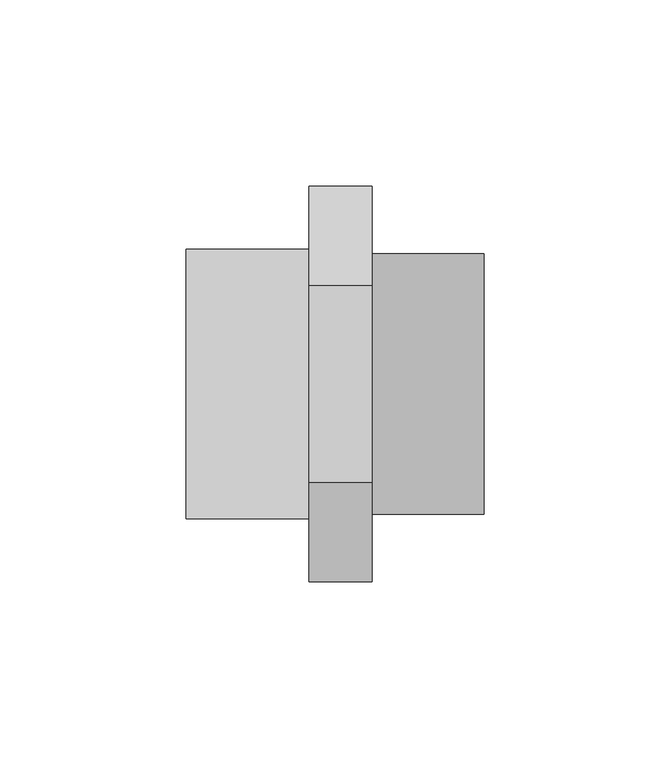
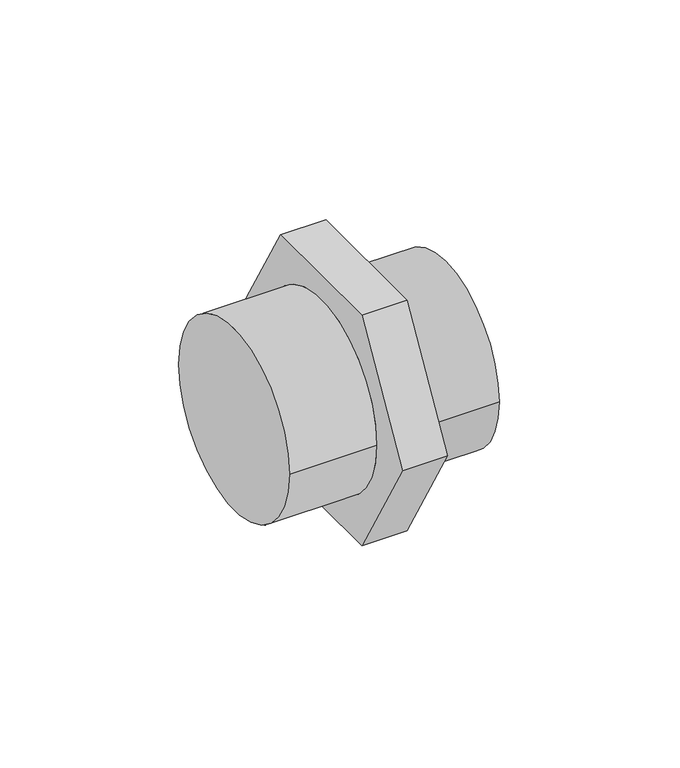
"""IFC4 building model written with IfcOpenShell, lengths in millimetres: pipe fitting geometry, 01011197 : Mamelons doubles réduction."""

import ifcopenshell
import ifcopenshell.guid

model = None  # the IFC model being written
_history = None  # IfcOwnerHistory: only IFC2X3 demands one
_inside = {}  # id of a spatial element -> (the spatial element, [elements in it])
_under = {}  # id of a project, library or spatial element -> (it, [spatial elements below it])
_declared = {}  # id of a project -> (the project, [libraries it declares])
_typed = {}  # id of a type object -> (the type object, [elements of that type])
_made_of = {}  # id of a material, layer set ... -> (it, [elements and type objects made of it])


def new_model(schema):
    """Start an empty IFC model of exactly this schema.

    Asked for "IFC4X3", IfcOpenShell would pick the latest addendum, in which some entities
    have other attributes; the version numbers below select the first issue.
    IFC2X3 requires an IfcOwnerHistory on every rooted entity: one is made here for all.
    """
    global model, _history
    if schema == "IFC4X3":
        model = ifcopenshell.file(schema_version=(4, 3, 0, 0))
    else:
        model = ifcopenshell.file(schema=schema)
    _inside.clear()
    _under.clear()
    _declared.clear()
    _typed.clear()
    _made_of.clear()
    _history = None
    if model.schema == "IFC2X3":
        org = make("IfcOrganization", Name="unknown")
        user = make(
            "IfcPersonAndOrganization",
            ThePerson=make("IfcPerson", FamilyName="unknown"),
            TheOrganization=org,
        )
        app = make(
            "IfcApplication",
            ApplicationDeveloper=org,
            Version="unknown",
            ApplicationFullName="unknown",
            ApplicationIdentifier="unknown",
        )
        _history = make(
            "IfcOwnerHistory",
            OwningUser=user,
            OwningApplication=app,
            ChangeAction="ADDED",
            CreationDate=0,
        )
    return model


def make(cls, **values):
    """One entity of the class cls with the attributes given. An attribute that is None is left unset."""
    return model.create_entity(
        cls, **{name: value for name, value in values.items() if value is not None}
    )


def rooted(cls, **values):
    """An entity with a GlobalId (a new one), such as an element, a storey or a relation."""
    return make(cls, GlobalId=ifcopenshell.guid.new(), OwnerHistory=_history, **values)


def si_unit(unit_type, name, prefix=None):
    """IfcSIUnit, for example si_unit("LENGTHUNIT", "METRE", prefix="MILLI")."""
    return make("IfcSIUnit", UnitType=unit_type, Prefix=prefix, Name=name)


def assignment(units):
    """IfcUnitAssignment: the units of a project."""
    return None if units is None else make("IfcUnitAssignment", Units=units)


def point(xyz):
    """IfcCartesianPoint."""
    return None if xyz is None else make("IfcCartesianPoint", Coordinates=xyz)


def direction(xyz):
    """IfcDirection."""
    return None if xyz is None else make("IfcDirection", DirectionRatios=xyz)


def frame(location, z_axis=None, x_axis=None):
    """IfcAxis2Placement3D, a coordinate frame: its origin and axes. An axis left out is left unset."""
    return make(
        "IfcAxis2Placement3D",
        Location=point(location),
        Axis=direction(z_axis),
        RefDirection=direction(x_axis),
    )


def origin():
    """The frame at (0, 0, 0) with its axes left unset."""
    return frame((0.0, 0.0, 0.0))


def place(relative_to, where):
    """IfcLocalPlacement: puts the frame where relative to a parent placement (None: the world)."""
    return make(
        "IfcLocalPlacement", PlacementRelTo=relative_to, RelativePlacement=where
    )


def context(
    kind, dimensions, precision=None, world=None, true_north=None, identifier=None
):
    """IfcGeometricRepresentationContext, for example the 3D "Model" context."""
    return make(
        "IfcGeometricRepresentationContext",
        ContextIdentifier=identifier,
        ContextType=kind,
        CoordinateSpaceDimension=dimensions,
        Precision=precision,
        WorldCoordinateSystem=world,
        TrueNorth=true_north,
    )


def project(units=None, contexts=None):
    """IfcProject with its units and contexts."""
    return rooted(
        "IfcProject",
        Name="project",
        RepresentationContexts=contexts,
        UnitsInContext=assignment(units),
    )


def spatial(cls, under=None, at=None, **own):
    """A site, building, storey or space (cls), placed at a placement, below another one or the project."""
    s = rooted(cls, ObjectPlacement=at, **own)
    if under is not None:
        _under.setdefault(under.id(), (under, []))[1].append(s)
    return s


def circle_curve(where, radius):
    """IfcCircle in the frame where."""
    return make("IfcCircle", Position=where, Radius=radius)


def shape(context_of_items, identifier, shape_type, items):
    """IfcShapeRepresentation: the items that make up one representation, for example the "Body"."""
    return make(
        "IfcShapeRepresentation",
        ContextOfItems=context_of_items,
        RepresentationIdentifier=identifier,
        RepresentationType=shape_type,
        Items=items,
    )


def source(mapping_origin, context_of_items, identifier, shape_type, items):
    """IfcRepresentationMap: a shape defined once, which mapped items show again and again."""
    return make(
        "IfcRepresentationMap",
        MappingOrigin=mapping_origin,
        MappedRepresentation=shape(context_of_items, identifier, shape_type, items),
    )


def transform(
    local_origin,
    x_axis=None,
    y_axis=None,
    z_axis=None,
    scale=None,
    scale2=None,
    scale3=None,
    uniform=True,
):
    """IfcCartesianTransformationOperator3D, or its non-uniform kind. x_axis, y_axis, z_axis: its Axis1, 2, 3."""
    if uniform:
        return make(
            "IfcCartesianTransformationOperator3D",
            Axis1=direction(x_axis),
            Axis2=direction(y_axis),
            LocalOrigin=point(local_origin),
            Scale=scale,
            Axis3=direction(z_axis),
        )
    return make(
        "IfcCartesianTransformationOperator3DnonUniform",
        Axis1=direction(x_axis),
        Axis2=direction(y_axis),
        LocalOrigin=point(local_origin),
        Scale=scale,
        Axis3=direction(z_axis),
        Scale2=scale2,
        Scale3=scale3,
    )


def mapped(mapping_source, mapping_target):
    """IfcMappedItem: shows the shape of a source again, moved by a transform."""
    return make(
        "IfcMappedItem", MappingSource=mapping_source, MappingTarget=mapping_target
    )


def made_of(thing, what):
    """Note that an element or type object is made of a material, layer set ...; save() writes the relation."""
    if what is not None:
        _made_of.setdefault(what.id(), (what, []))[1].append(thing)
    return thing


def element(
    cls,
    number,
    at=None,
    inside=None,
    cuts=None,
    type_object=None,
    material=None,
    context=None,
    identifier="Body",
    shape_type=None,
    held_by="IfcProductDefinitionShape",
    body=None,
    shapes=None,
    **own,
):
    """One element of the class cls, such as IfcWall. Its Tag is "e" and its number.

    at: its placement. inside: the storey or other place that contains it. cuts: it is an
    opening in that element (IfcRelVoidsElement). A single representation is given by context,
    identifier, shape_type and body (its items); several are given by shapes. held_by: the class
    of the entity that holds the representations. save() writes the other relations.
    """
    e = rooted(cls, Tag="e%d" % number, ObjectPlacement=at, **own)
    if body is not None:
        shapes = [shape(context, identifier, shape_type, body)]
    if shapes is not None:
        e.Representation = make(held_by, Representations=shapes)
    if inside is not None:
        _inside.setdefault(inside.id(), (inside, []))[1].append(e)
    if cuts is not None:
        rooted(
            "IfcRelVoidsElement", RelatingBuildingElement=cuts, RelatedOpeningElement=e
        )
    if type_object is not None:
        _typed.setdefault(type_object.id(), (type_object, []))[1].append(e)
    return made_of(e, material)


def aggregate(whole, parts):
    """IfcRelAggregates: a whole, such as a stair, and the parts it consists of."""
    return rooted("IfcRelAggregates", RelatingObject=whole, RelatedObjects=parts)


def save(model, path):
    """Write the relations noted so far, then the file.

    IfcRelAggregates (storeys below a building ...), IfcRelContainedInSpatialStructure (elements
    in a storey), IfcRelDefinesByType, IfcRelAssociatesMaterial and IfcRelDeclares: one each for
    every whole, place, type object, material and project.
    """
    for whole, parts in _under.values():
        aggregate(whole, parts)
    for where, things in _inside.values():
        rooted(
            "IfcRelContainedInSpatialStructure",
            RelatedElements=things,
            RelatingStructure=where,
        )
    for kind, things in _typed.values():
        rooted("IfcRelDefinesByType", RelatedObjects=things, RelatingType=kind)
    for what, things in _made_of.values():
        rooted("IfcRelAssociatesMaterial", RelatedObjects=things, RelatingMaterial=what)
    for by, libraries in _declared.values():
        rooted("IfcRelDeclares", RelatingContext=by, RelatedDefinitions=libraries)
    model.write(path)


def plane_surface(at):
    """IfcPlane: the flat surface through the origin of the frame at, square to its z axis."""
    return make("IfcPlane", Position=at)


def cylinder_surface(at, radius):
    """IfcCylindricalSurface: all points at the distance radius from the z axis of the frame at."""
    return make("IfcCylindricalSurface", Position=at, Radius=radius)


def advanced_brep(points, edges, surfaces, faces):
    """IfcAdvancedBrep: a solid bounded by faces that lie on surfaces and meet in shared edges.

    An edge is (start, end): straight between two places in points (the first is 0);
    or (start, end, curve); or (start, end, curve, False) where it runs against its curve.
    A face is (place in surfaces, loops), or (place, loops, False) where it looks against
    its surface's normal. A loop lists edges by number (the first is 1), with a minus sign
    where the edge is run from its end to its start. The first loop is the outer one.
    """
    corners = [point(p) for p in points]
    vertices = [make("IfcVertexPoint", VertexGeometry=c) for c in corners]
    made = []
    for start, end, *more in edges:
        made.append(
            make(
                "IfcEdgeCurve",
                EdgeStart=vertices[start],
                EdgeEnd=vertices[end],
                EdgeGeometry=more[0] if more else make("IfcPolyline", Points=[corners[start], corners[end]]),
                SameSense=more[1] if len(more) > 1 else True,
            )
        )
    hull = []
    for where, loops, *sense in faces:
        bounds = []
        for j, loop in enumerate(loops):
            ring = [make("IfcOrientedEdge", EdgeElement=made[abs(k) - 1], Orientation=k > 0) for k in loop]
            bounds.append(
                make(
                    "IfcFaceOuterBound" if j == 0 else "IfcFaceBound",
                    Bound=make("IfcEdgeLoop", EdgeList=ring),
                    Orientation=True,
                )
            )
        hull.append(make("IfcAdvancedFace", Bounds=bounds, FaceSurface=surfaces[where], SameSense=sense[0] if sense else True))
    return make("IfcAdvancedBrep", Outer=make("IfcClosedShell", CfsFaces=hull))


def pipe_fitting_fb3fe18e(model_context):
    return source(origin(), model_context, "Body", "AdvancedBrep", [
        advanced_brep(
        [(50.0, -26.5581124, 46.0), (50.0, -53.1162248, 0.0), (50.0, -26.5581124, -46.0), (50.0, 26.5581124, -46.0), (50.0, 53.1162248, 0.0), (50.0, 26.5581124, 46.0), (50.0, -34.925, 0.0), (50.0, 34.925, 0.0), (33.0, -26.5581124, 46.0), (33.0, 26.5581124, 46.0), (33.0, 53.1162248, 0.0), (33.0, 26.5581124, -46.0), (33.0, -26.5581124, -46.0), (33.0, -53.1162248, 0.0), (33.0, 36.195, 0.0), (33.0, -36.195, 0.0), (80.0, -34.925, 0.0), (80.0, 34.925, 0.0), (0.0, 36.195, 0.0), (0.0, -36.195, 0.0)],
        [
            (0, 1),
            (1, 2),
            (2, 3),
            (3, 4),
            (4, 5),
            (5, 0),
            (6, 7, circle_curve(frame((50.0, 0.0, 0.0), z_axis=(-1.0, 0.0, 0.0), x_axis=(0.0, 1.0, 0.0)), 34.925)),
            (7, 6, circle_curve(frame((50.0, 0.0, 0.0), z_axis=(-1.0, 0.0, 0.0), x_axis=(0.0, 1.0, 0.0)), 34.925)),
            (8, 9),
            (9, 10),
            (10, 11),
            (11, 12),
            (12, 13),
            (13, 8),
            (14, 15, circle_curve(frame((33.0, 0.0, 0.0), z_axis=(1.0, 0.0, 0.0), x_axis=(0.0, -1.0, 0.0)), 36.195)),
            (15, 14, circle_curve(frame((33.0, 0.0, 0.0), z_axis=(1.0, 0.0, 0.0), x_axis=(0.0, -1.0, 0.0)), 36.195)),
            (0, 8),
            (13, 1),
            (12, 2),
            (11, 3),
            (10, 4),
            (9, 5),
            (16, 17, circle_curve(frame((80.0, 0.0, 0.0), z_axis=(1.0, 0.0, 0.0), x_axis=(0.0, 1.0, 0.0)), 34.925)),
            (17, 16, circle_curve(frame((80.0, 0.0, 0.0), z_axis=(1.0, 0.0, 0.0), x_axis=(0.0, 1.0, 0.0)), 34.925)),
            (17, 7),
            (6, 16),
            (18, 19, circle_curve(frame((0.0, 0.0, 0.0), z_axis=(-1.0, 0.0, 0.0), x_axis=(0.0, -1.0, 0.0)), 36.195)),
            (19, 18, circle_curve(frame((0.0, 0.0, 0.0), z_axis=(-1.0, 0.0, 0.0), x_axis=(0.0, -1.0, 0.0)), 36.195)),
            (19, 15),
            (14, 18),
        ],
        [
            plane_surface(frame((50.0, -26.5581124, 46.0), z_axis=(1.0, 0.0, 0.0), x_axis=(0.0, -0.500000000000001, -0.866025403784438))),
            plane_surface(frame((33.0, -26.5581124, 46.0), z_axis=(-1.0, 0.0, 0.0), x_axis=(0.0, 0.500000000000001, 0.866025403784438))),
            plane_surface(frame((50.0, -26.5581124, 46.0), z_axis=(0.0, -0.866025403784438, 0.500000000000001), x_axis=(-1.0, 0.0, 0.0))),
            plane_surface(frame((50.0, -53.1162248, 0.0), z_axis=(0.0, -0.866025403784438, -0.500000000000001), x_axis=(-1.0, 0.0, 0.0))),
            plane_surface(frame((50.0, -26.5581124, -46.0), z_axis=(0.0, 0.0, -1.0), x_axis=(-1.0, 0.0, 0.0))),
            plane_surface(frame((50.0, 26.5581124, -46.0), z_axis=(0.0, 0.8660254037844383, -0.5000000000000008), x_axis=(-1.0, 0.0, 0.0))),
            plane_surface(frame((50.0, 53.1162248, 0.0), z_axis=(0.0, 0.8660254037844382, 0.5000000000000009), x_axis=(-1.0, 0.0, 0.0))),
            plane_surface(frame((50.0, 26.5581124, 46.0), z_axis=(0.0, 0.0, 1.0), x_axis=(-1.0, 0.0, 0.0))),
            plane_surface(frame((80.0, 0.0, 0.0), z_axis=(1.0, 0.0, 0.0), x_axis=(0.0, 0.0, 1.0))),
            cylinder_surface(frame((50.0, 0.0, 0.0), z_axis=(-1.0, 0.0, 0.0), x_axis=(0.0, 1.0, 0.0)), 34.925),
            plane_surface(frame((0.0, 0.0, 0.0), z_axis=(-1.0, 0.0, 0.0), x_axis=(0.0, 0.0, 1.0))),
            cylinder_surface(frame((33.0, 0.0, 0.0), z_axis=(1.0, 0.0, 0.0), x_axis=(0.0, -1.0, 0.0)), 36.195),
        ],
        [
            (0, [[1, 2, 3, 4, 5, 6], [7, 8]]),
            (1, [[9, 10, 11, 12, 13, 14], [15, 16]]),
            (2, [[-1, 17, -14, 18]]),
            (3, [[-2, -18, -13, 19]]),
            (4, [[-3, -19, -12, 20]]),
            (5, [[-4, -20, -11, 21]]),
            (6, [[-5, -21, -10, 22]]),
            (7, [[-6, -22, -9, -17]]),
            (8, [[23, 24]]),
            (9, [[-24, 25, -7, 26]]),
            (9, [[-23, -26, -8, -25]]),
            (10, [[27, 28]]),
            (11, [[-28, 29, -15, 30]]),
            (11, [[-27, -30, -16, -29]]),
        ],
    ),
    ])


if __name__ == "__main__":
    model = new_model("IFC4")
    model_context = context("Model", 3, world=origin())
    ifc_project = project(units=[si_unit("LENGTHUNIT", "METRE", prefix="MILLI")], contexts=[model_context])
    site = spatial("IfcSite", under=ifc_project)
    building = spatial("IfcBuilding", under=site)
    placement = place(None, origin())
    pipe_fitting_shape = pipe_fitting_fb3fe18e(model_context)
    element("IfcPipeFitting", 1, ObjectType="01011197 : Mamelons doubles réduction", at=placement, inside=building, context=model_context, shape_type="MappedRepresentation", body=[
        mapped(pipe_fitting_shape, transform((0.0, 0.0, 0.0), x_axis=(1.0, 0.0, 0.0), y_axis=(0.0, 1.0, 0.0), z_axis=(0.0, 0.0, 1.0))),
    ])
    save(model, "model.ifc")
